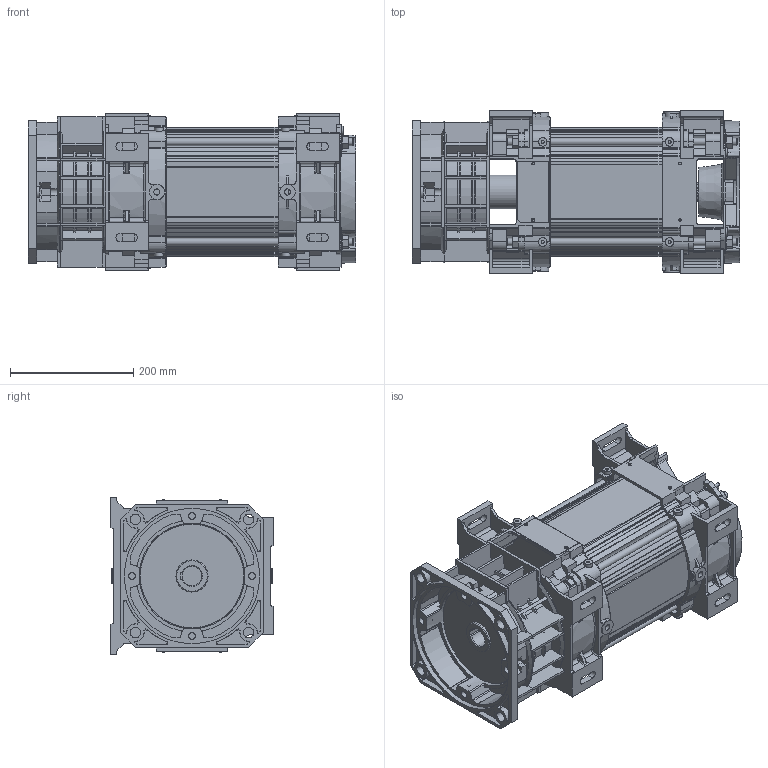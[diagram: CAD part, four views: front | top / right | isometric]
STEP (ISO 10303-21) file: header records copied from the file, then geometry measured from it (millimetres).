
FILE_DESCRIPTION(/* description */ ('Motore Tipo S76 Fl.220 F32-H225 SI Volano D168 NO Piedi'),/* implementation_level */ '2;1');
FILE_NAME(/* name */ 'Y:\ServerTecnico\Mockup Motori x Sito Elmo\Mockup Tipo V76 Size 2 FL220 F32-H225 SI Volano D168.stp',/* time_stamp */ '2016-11-04T11:42:57+01:00',/* author */ ('aparmini'),/* organization */ (''),/* preprocessor_version */ 'ST-DEVELOPER v16.5',/* originating_system */ 'Autodesk Inventor 2017',/* authorisation */ '');
FILE_SCHEMA (('AUTOMOTIVE_DESIGN { 1 0 10303 214 3 1 1 }'));
Products named in the file (12): Mockup Tipo V76 Size 2 FL220 F32-H225 SI Volano D168; Mockup Statore Size 2 - F32-H225 SI Volano D168; TGS10; CA2FD220N; CsperimParma Nuovo CRUC  14-02-05; Ca sperimSenza Volano Nuovo; CAV2 DISTANZIALE; Mockup CP2X062N; UNI 5588 - M12; DIN 125-2 - B 13; TI12ML375; UNI 5588 - M12_1
Assembly tree (23 placements, depth 3):
  Mockup Tipo V76 Size 2 FL220 F32-H225 SI Volano D168
    Mockup Statore Size 2 - F32-H225 SI Volano D168
    TGS10
    CA2FD220N
      CsperimParma Nuovo CRUC  14-02-05
      Ca sperimSenza Volano Nuovo
      CAV2 DISTANZIALE
    Mockup CP2X062N
    UNI 5588 - M12  x4
    DIN 125-2 - B 13  x4
    TI12ML375  x4
    UNI 5588 - M12_1  x4
Bounding box: 532 x 264 x 256 mm (x, y, z)
Volume: 13611569.5 mm3; surface area: 1528721.8 mm2
Topology: 25 solids, 25 shells, 2445 faces, 6791 edges, 4403 vertices
Faces by surface type: plane 1027, cylinder 781, cone 439, torus 102, bspline 80, sphere 16
Full cylindrical faces by diameter (mm): 4 x8, 5 x10, 8 x2, 10 x4, 10.106 x8, 11 x4, 12 x4, 13 x8, 14 x10, 17 x4, 24 x4, 25 x5, 30 x1, 32 x1, 52 x2, 55 x1, 62 x3, 65 x1, 67.5 x1, 168 x1, 220 x1
Entity records: 76920 total; most frequent: CARTESIAN_POINT 17414, ORIENTED_EDGE 12606, DIRECTION 12604, EDGE_CURVE 6303, AXIS2_PLACEMENT_3D 4686, VERTEX_POINT 4165, LINE 3232, VECTOR 3232
